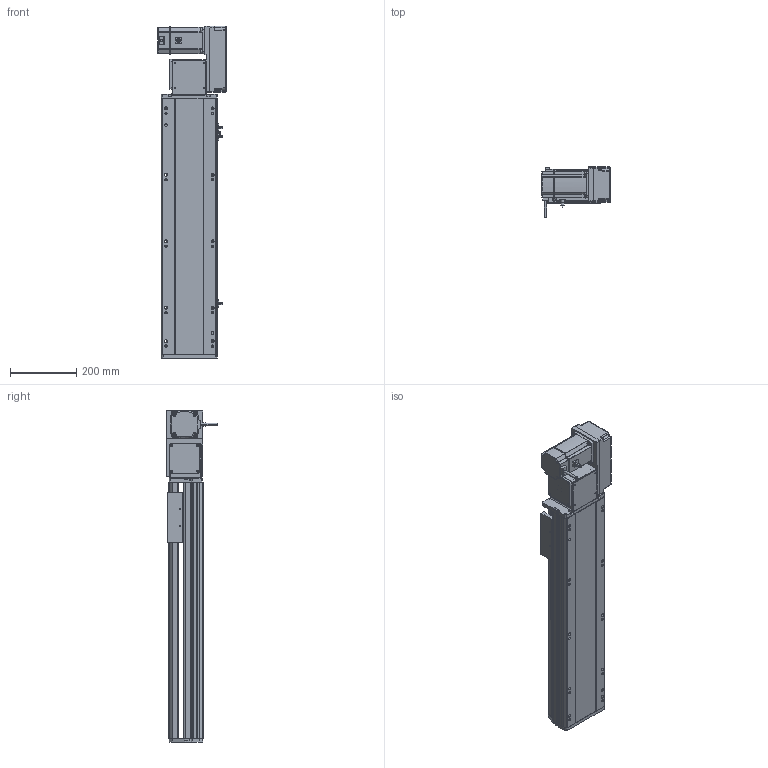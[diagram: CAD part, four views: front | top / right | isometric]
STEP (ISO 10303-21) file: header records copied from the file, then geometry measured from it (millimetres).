
FILE_DESCRIPTION (( 'STEP AP214' ), '1' );
FILE_NAME ('RTB17S-XX-500-R-M75-C4.STEP', '2025-12-12T01:30:45', ( '' ), ( '' ), 'SwSTEP 2.0', 'SolidWorks 2018', '' );
FILE_SCHEMA (( 'AUTOMOTIVE_DESIGN' ));
Length unit declared in the file: millimetre
Products named in the file (15): RTB17-R-011菁釱^RTB17S-XX-XX-R-M75-C4; RTH13-BL-012覜茼え俋离^RTB17S-賑釱_RTB17S-XX-XX-R-M75-C4; RTB22S-GY-017P^RTB17S-R-々湍釱蚾饜-750W_RTB17S-XX-XX-R-M75-C4; RTB17S-L-007奻裔^RTB17S-XX-XX-R-M75-C4; 750W萇儂^RTB17S-XX-XX-R-M75-C4; RTB17S-L-001-耜醱啣^RTB17S-XX-XX-R-M75-C4; EE672^RTB17S-XX-XX-R-M75-C4; RTB22S-GY-018P^RTB17S-R-々湍釱蚾饜-750W_RTB17S-XX-XX-R-M75-C4; RTB17S-R-々湍釱蚾饜-750W^RTB17S-XX-XX-R-M75-C4; RTB17S-L-004-賑釱^RTB17S-賑釱_RTB17S-XX-XX-R-M75-C4; RTB17S-賑釱^RTB17S-XX-XX-R-M75-C4; RTB17S-L-014-T20-P75--々湍釱^RTB17S-R-々湍釱蚾饜-750W_RTB17S-XX-XX-R-M75-C4; RTB22S-GY-008-M75--萇儂啣^RTB17S-R-々湍釱蚾饜-750W_RTB17S-XX-XX-R-M75-C4; RTB17S-XX-500-R-M75-C4; RTB22S-GY-005P^RTB17S-R-々湍釱蚾饜-750W_RTB17S-XX-XX-R-M75-C4
Assembly tree (17 placements, depth 3):
  RTB17S-XX-500-R-M75-C4
    RTB17-R-011菁釱^RTB17S-XX-XX-R-M75-C4
    EE672^RTB17S-XX-XX-R-M75-C4  x3
    RTB17S-L-001-耜醱啣^RTB17S-XX-XX-R-M75-C4
    RTB17S-賑釱^RTB17S-XX-XX-R-M75-C4
      RTB17S-L-004-賑釱^RTB17S-賑釱_RTB17S-XX-XX-R-M75-C4
      RTH13-BL-012覜茼え俋离^RTB17S-賑釱_RTB17S-XX-XX-R-M75-C4
    RTB17S-L-007奻裔^RTB17S-XX-XX-R-M75-C4
    750W萇儂^RTB17S-XX-XX-R-M75-C4
    RTB17S-R-々湍釱蚾饜-750W^RTB17S-XX-XX-R-M75-C4
      RTB17S-L-014-T20-P75--々湍釱^RTB17S-R-々湍釱蚾饜-750W_RTB17S-XX-XX-R-M75-C4
      RTB22S-GY-005P^RTB17S-R-々湍釱蚾饜-750W_RTB17S-XX-XX-R-M75-C4
      RTB22S-GY-017P^RTB17S-R-々湍釱蚾饜-750W_RTB17S-XX-XX-R-M75-C4  x2
      RTB22S-GY-008-M75--萇儂啣^RTB17S-R-々湍釱蚾饜-750W_RTB17S-XX-XX-R-M75-C4
      RTB22S-GY-018P^RTB17S-R-々湍釱蚾饜-750W_RTB17S-XX-XX-R-M75-C4
Bounding box: 207.4 x 152.7 x 999 mm (x, y, z)
Volume: 9072938.5 mm3; surface area: 1457653.8 mm2
Topology: 17 solids, 17 shells, 2057 faces, 5674 edges, 3662 vertices
Faces by surface type: plane 966, cylinder 675, bspline 294, cone 110, sphere 8, torus 4
Entity records: 56566 total; most frequent: CARTESIAN_POINT 16538, ORIENTED_EDGE 8192, DIRECTION 7682, EDGE_CURVE 4096, AXIS2_PLACEMENT_3D 2682, VERTEX_POINT 2666, VECTOR 2318, LINE 2318
